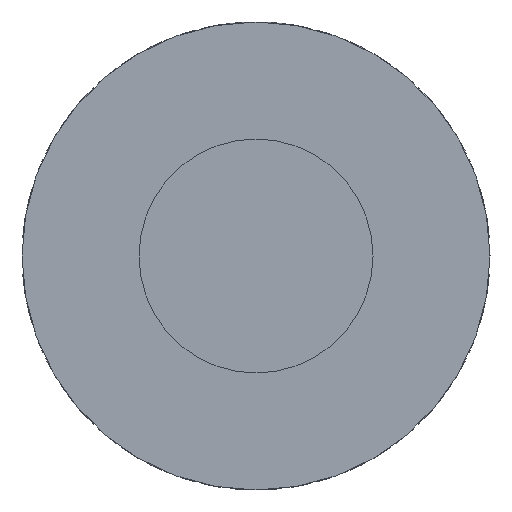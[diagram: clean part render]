
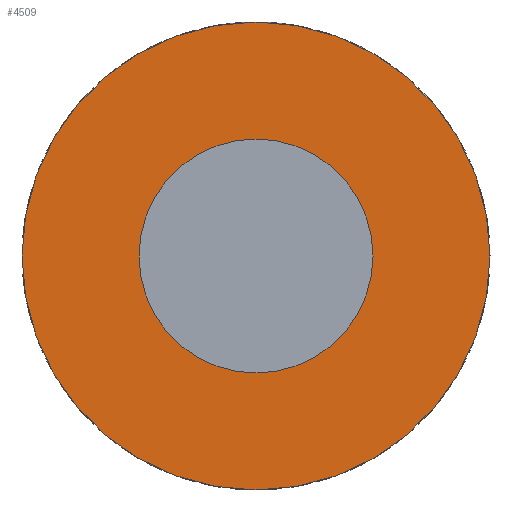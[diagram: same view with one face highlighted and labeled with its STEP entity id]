
A CAD part, front view. The second image highlights one B-rep face of the part: STEP entity #4509.
In plain terms, the highlighted planar face has unit normal (0, -1, 0).
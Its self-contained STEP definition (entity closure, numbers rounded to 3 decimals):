
#779 = DIRECTION ( 'NONE',  ( 0., -1., 0. ) ) ;
#1624 = CARTESIAN_POINT ( 'NONE',  ( 0., 0., 0. ) ) ;
#1757 = DIRECTION ( 'NONE',  ( -1., 0., 0. ) ) ;
#2829 = DIRECTION ( 'NONE',  ( 0., 1., 0. ) ) ;
#3077 = ORIENTED_EDGE ( 'NONE', *, *, #4882, .F. ) ;
#3612 = VERTEX_POINT ( 'NONE', #8611 ) ;
#4165 = CIRCLE ( 'NONE', #11681, 8. ) ;
#4509 = ADVANCED_FACE ( 'NONE', ( #4809, #12756 ), #5696, .F. ) ;
#4809 = FACE_BOUND ( 'NONE', #10188, .T. ) ;
#4882 = EDGE_CURVE ( 'NONE', #3612, #3612, #4165, .T. ) ;
#5010 = AXIS2_PLACEMENT_3D ( 'NONE', #5069, #13143, #13076 ) ;
#5069 = CARTESIAN_POINT ( 'NONE',  ( 8., 0., 0. ) ) ;
#5559 = CARTESIAN_POINT ( 'NONE',  ( 4., 0., 0. ) ) ;
#5696 = PLANE ( 'NONE',  #5010 ) ;
#5756 = EDGE_CURVE ( 'NONE', #11684, #11684, #11054, .T. ) ;
#7278 = EDGE_LOOP ( 'NONE', ( #3077 ) ) ;
#8459 = ORIENTED_EDGE ( 'NONE', *, *, #5756, .F. ) ;
#8611 = CARTESIAN_POINT ( 'NONE',  ( -8., 0., 0. ) ) ;
#9771 = AXIS2_PLACEMENT_3D ( 'NONE', #9997, #779, #12890 ) ;
#9997 = CARTESIAN_POINT ( 'NONE',  ( 0., 0., 0. ) ) ;
#10188 = EDGE_LOOP ( 'NONE', ( #8459 ) ) ;
#11054 = CIRCLE ( 'NONE', #9771, 4. ) ;
#11681 = AXIS2_PLACEMENT_3D ( 'NONE', #1624, #2829, #1757 ) ;
#11684 = VERTEX_POINT ( 'NONE', #5559 ) ;
#12756 = FACE_OUTER_BOUND ( 'NONE', #7278, .T. ) ;
#12890 = DIRECTION ( 'NONE',  ( 1., 0., 0. ) ) ;
#13076 = DIRECTION ( 'NONE',  ( -1., 0., 0. ) ) ;
#13143 = DIRECTION ( 'NONE',  ( 0., 1., 0. ) ) ;
